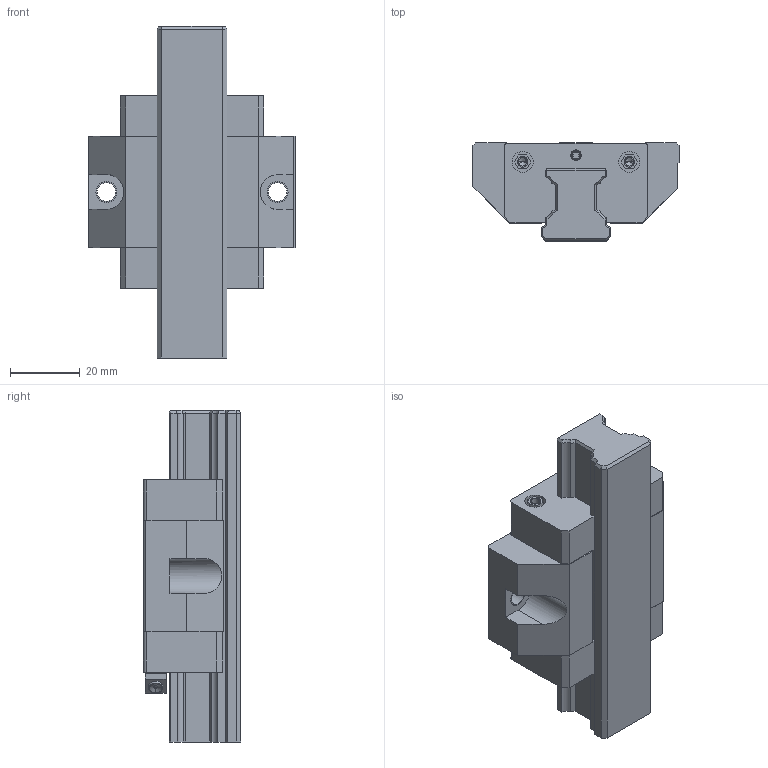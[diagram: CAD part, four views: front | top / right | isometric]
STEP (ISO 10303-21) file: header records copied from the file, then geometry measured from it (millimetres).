
FILE_DESCRIPTION((''),'2;1');
FILE_NAME('KWC_020_FKN_CS__ASM','2021-10-14T07:47:32',('ac91sw'),(''),'CREO PARAMETRIC BY PTC INC, 2020044','CREO PARAMETRIC BY PTC INC, 2020044','');
FILE_SCHEMA(('AUTOMOTIVE_DESIGN { 1 0 10303 214 1 1 1 1 }'));
Length unit declared in the file: millimetre
Products named in the file (7): KWC_020_FKN_CS__SKEL; R166380061; R169480002_Z; KWC_020_FKN_CS__PSF; R343708901_Z; R341700409_Z; KWC_020_FKN_CS__ASM
Assembly tree (7 placements, depth 2):
  KWC_020_FKN_CS__ASM
    KWC_020_FKN_CS__SKEL
    R166380061
    R169480002_Z  x2
    KWC_020_FKN_CS__PSF
    R343708901_Z
    R341700409_Z
Bounding box: 59 x 28 x 95 mm (x, y, z)
Volume: 69422.2 mm3; surface area: 26865 mm2
Topology: 6 solids, 13 shells, 303 faces, 775 edges, 500 vertices
Faces by surface type: plane 189, cylinder 86, cone 28
Entity records: 13332 total; most frequent: CARTESIAN_POINT 1479, DIRECTION 1231, ORIENTED_EDGE 1162, PROPERTY_DEFINITION 814, REPRESENTATION 806, PROPERTY_DEFINITION_REPRESENTATION 806, DESCRIPTIVE_REPRESENTATION_ITEM 754, GENERAL_PROPERTY 749
